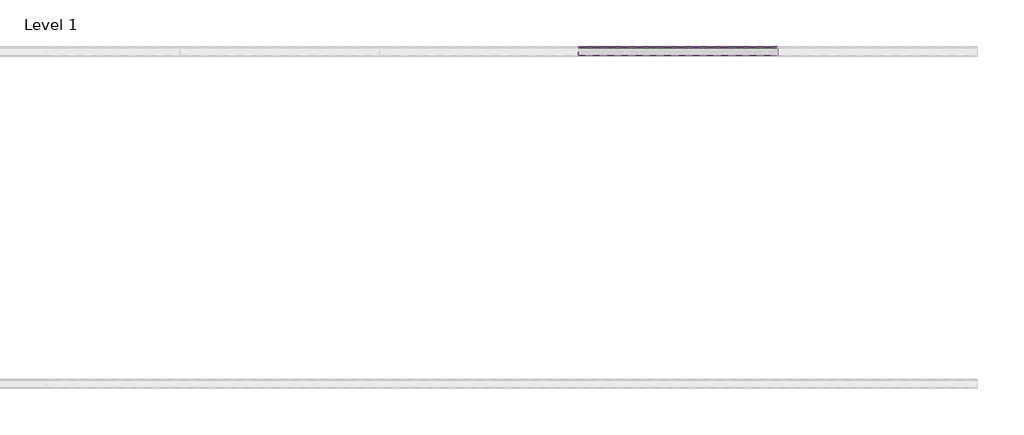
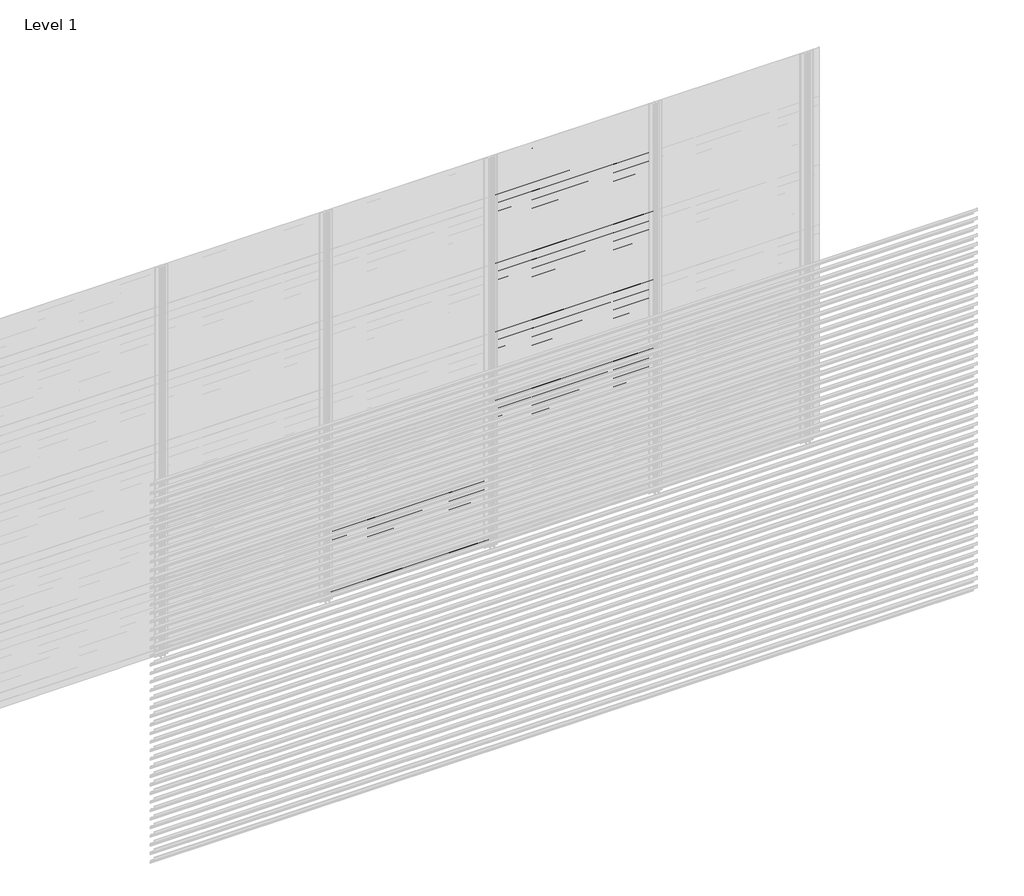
# One storey, part 122 of 540: 43 proxies.
"""IFC4 building model written with IfcOpenShell, lengths in millimetres."""

from ifc_helpers import new_model, si_unit, point, frame, frame_2d, origin, place, context, project, spatial, polyline, circle_curve, trimmed, segment, composite_curve, outline, extrude, element, save

model = new_model("IFC4")

# Units and contexts
model_context = context("Model", 3, world=origin())
ifc_project = project(units=[si_unit("LENGTHUNIT", "METRE", prefix="MILLI")], contexts=[model_context])

# Site, building, storey
site = spatial("IfcSite", under=ifc_project)
building = spatial("IfcBuilding", under=site)
storey = spatial("IfcBuildingStorey", under=building, Name="Level 1", Elevation=0.0)

# Proxies
placement = place(None, origin())
element("IfcBuildingElementProxy", 1, Name="Wall Sweeps", at=placement, inside=storey, context=model_context, shape_type="SweptSolid", body=[
    extrude(outline(composite_curve([segment(trimmed(circle_curve(frame_2d((7017.5825412, 457.7676769)), 26.4944656), [point((7034.5447587, 478.1205608))], [point((7044.0270068, 459.3946208))], False, "CARTESIAN"), True, "CONTINUOUS"), segment(polyline([(7044.0270068, 459.3946208), (7044.0270068, 451.5), (7042.7770068, 452.2216933), (7042.7770068, 457.7676769)]), True, "CONTINUOUS"), segment(trimmed(circle_curve(frame_2d((7017.5825412, 457.7676769)), 25.1944656), [point((7042.7770068, 457.7676769))], [point((7033.7545017, 477.086807))], True, "CARTESIAN"), True, "CONTINUOUS"), segment(polyline([(7033.7545017, 477.086807), (6989.0270068, 508.3158044), (6989.0270068, 528.0), (6990.2770068, 528.0), (6990.2770068, 509.0285629), (7034.5447587, 478.1205608)]), True, "CONTINUOUS")], self_intersect=False)), frame((91866.6208097, 0.0, 0.0), z_axis=(1.0, 0.0, 0.0), x_axis=(0.0, 1.0, 0.0)), (0.0, 0.0, 1.0), 1199.9999999),
])
element("IfcBuildingElementProxy", 2, Name="Wall Sweeps", at=placement, inside=storey, context=model_context, shape_type="SweptSolid", body=[
    extrude(outline(composite_curve([segment(trimmed(circle_curve(frame_2d((7017.5825412, 391.7676769)), 26.4944656), [point((7034.5447587, 412.1205608))], [point((7044.0270068, 393.3946208))], False, "CARTESIAN"), True, "CONTINUOUS"), segment(polyline([(7044.0270068, 393.3946208), (7044.0270068, 385.5), (7042.7770068, 386.2216933), (7042.7770068, 391.7676769)]), True, "CONTINUOUS"), segment(trimmed(circle_curve(frame_2d((7017.5825412, 391.7676769)), 25.1944656), [point((7042.7770068, 391.7676769))], [point((7033.7545017, 411.086807))], True, "CARTESIAN"), True, "CONTINUOUS"), segment(polyline([(7033.7545017, 411.086807), (6989.0270068, 442.3158044), (6989.0270068, 462.0), (6990.2770068, 462.0), (6990.2770068, 443.0285629), (7034.5447587, 412.1205608)]), True, "CONTINUOUS")], self_intersect=False)), frame((91866.6208097, 0.0, 0.0), z_axis=(1.0, 0.0, 0.0), x_axis=(0.0, 1.0, 0.0)), (0.0, 0.0, 1.0), 1199.9999999),
])
element("IfcBuildingElementProxy", 3, Name="Wall Sweeps", at=placement, inside=storey, context=model_context, shape_type="SweptSolid", body=[
    extrude(outline(composite_curve([segment(trimmed(circle_curve(frame_2d((7017.5825412, 325.7676769)), 26.4944656), [point((7034.5447587, 346.1205608))], [point((7044.0270068, 327.3946208))], False, "CARTESIAN"), True, "CONTINUOUS"), segment(polyline([(7044.0270068, 327.3946208), (7044.0270068, 319.5), (7042.7770068, 320.2216933), (7042.7770068, 325.7676769)]), True, "CONTINUOUS"), segment(trimmed(circle_curve(frame_2d((7017.5825412, 325.7676769)), 25.1944656), [point((7042.7770068, 325.7676769))], [point((7033.7545017, 345.086807))], True, "CARTESIAN"), True, "CONTINUOUS"), segment(polyline([(7033.7545017, 345.086807), (6989.0270068, 376.3158044), (6989.0270068, 396.0), (6990.2770068, 396.0), (6990.2770068, 377.0285629), (7034.5447587, 346.1205608)]), True, "CONTINUOUS")], self_intersect=False)), frame((91866.6208097, 0.0, 0.0), z_axis=(1.0, 0.0, 0.0), x_axis=(0.0, 1.0, 0.0)), (0.0, 0.0, 1.0), 1199.9999999),
])
element("IfcBuildingElementProxy", 4, Name="Wall Sweeps", at=placement, inside=storey, context=model_context, shape_type="SweptSolid", body=[
    extrude(outline(composite_curve([segment(trimmed(circle_curve(frame_2d((7017.5825412, 259.7676769)), 26.4944656), [point((7034.5447587, 280.1205608))], [point((7044.0270068, 261.3946208))], False, "CARTESIAN"), True, "CONTINUOUS"), segment(polyline([(7044.0270068, 261.3946208), (7044.0270068, 253.5), (7042.7770068, 254.2216933), (7042.7770068, 259.7676769)]), True, "CONTINUOUS"), segment(trimmed(circle_curve(frame_2d((7017.5825412, 259.7676769)), 25.1944656), [point((7042.7770068, 259.7676769))], [point((7033.7545017, 279.086807))], True, "CARTESIAN"), True, "CONTINUOUS"), segment(polyline([(7033.7545017, 279.086807), (6989.0270068, 310.3158044), (6989.0270068, 330.0), (6990.2770068, 330.0), (6990.2770068, 311.0285629), (7034.5447587, 280.1205608)]), True, "CONTINUOUS")], self_intersect=False)), frame((91866.6208097, 0.0, 0.0), z_axis=(1.0, 0.0, 0.0), x_axis=(0.0, 1.0, 0.0)), (0.0, 0.0, 1.0), 1199.9999999),
])
element("IfcBuildingElementProxy", 5, Name="Wall Sweeps", at=placement, inside=storey, context=model_context, shape_type="SweptSolid", body=[
    extrude(outline(composite_curve([segment(trimmed(circle_curve(frame_2d((7017.5825412, 193.7676769)), 26.4944656), [point((7034.5447587, 214.1205608))], [point((7044.0270068, 195.3946208))], False, "CARTESIAN"), True, "CONTINUOUS"), segment(polyline([(7044.0270068, 195.3946208), (7044.0270068, 187.5), (7042.7770068, 188.2216933), (7042.7770068, 193.7676769)]), True, "CONTINUOUS"), segment(trimmed(circle_curve(frame_2d((7017.5825412, 193.7676769)), 25.1944656), [point((7042.7770068, 193.7676769))], [point((7033.7545017, 213.086807))], True, "CARTESIAN"), True, "CONTINUOUS"), segment(polyline([(7033.7545017, 213.086807), (6989.0270068, 244.3158044), (6989.0270068, 264.0), (6990.2770068, 264.0), (6990.2770068, 245.0285629), (7034.5447587, 214.1205608)]), True, "CONTINUOUS")], self_intersect=False)), frame((91866.6208097, 0.0, 0.0), z_axis=(1.0, 0.0, 0.0), x_axis=(0.0, 1.0, 0.0)), (0.0, 0.0, 1.0), 1199.9999999),
])
element("IfcBuildingElementProxy", 6, Name="Wall Sweeps", at=placement, inside=storey, context=model_context, shape_type="SweptSolid", body=[
    extrude(outline(composite_curve([segment(trimmed(circle_curve(frame_2d((7017.5825412, 127.7676769)), 26.4944656), [point((7034.5447587, 148.1205608))], [point((7044.0270068, 129.3946208))], False, "CARTESIAN"), True, "CONTINUOUS"), segment(polyline([(7044.0270068, 129.3946208), (7044.0270068, 121.5), (7042.7770068, 122.2216933), (7042.7770068, 127.7676769)]), True, "CONTINUOUS"), segment(trimmed(circle_curve(frame_2d((7017.5825412, 127.7676769)), 25.1944656), [point((7042.7770068, 127.7676769))], [point((7033.7545017, 147.086807))], True, "CARTESIAN"), True, "CONTINUOUS"), segment(polyline([(7033.7545017, 147.086807), (6989.0270068, 178.3158044), (6989.0270068, 198.0), (6990.2770068, 198.0), (6990.2770068, 179.0285629), (7034.5447587, 148.1205608)]), True, "CONTINUOUS")], self_intersect=False)), frame((91866.6208097, 0.0, 0.0), z_axis=(1.0, 0.0, 0.0), x_axis=(0.0, 1.0, 0.0)), (0.0, 0.0, 1.0), 1199.9999999),
])
element("IfcBuildingElementProxy", 7, Name="Wall Sweeps", at=placement, inside=storey, context=model_context, shape_type="SweptSolid", body=[
    extrude(outline(composite_curve([segment(trimmed(circle_curve(frame_2d((7017.5825412, 61.7676769)), 26.4944656), [point((7034.5447587, 82.1205608))], [point((7044.0270068, 63.3946208))], False, "CARTESIAN"), True, "CONTINUOUS"), segment(polyline([(7044.0270068, 63.3946208), (7044.0270068, 55.5), (7042.7770068, 56.2216933), (7042.7770068, 61.7676769)]), True, "CONTINUOUS"), segment(trimmed(circle_curve(frame_2d((7017.5825412, 61.7676769)), 25.1944656), [point((7042.7770068, 61.7676769))], [point((7033.7545017, 81.086807))], True, "CARTESIAN"), True, "CONTINUOUS"), segment(polyline([(7033.7545017, 81.086807), (6989.0270068, 112.3158044), (6989.0270068, 132.0), (6990.2770068, 132.0), (6990.2770068, 113.0285629), (7034.5447587, 82.1205608)]), True, "CONTINUOUS")], self_intersect=False)), frame((91866.6208097, 0.0, 0.0), z_axis=(1.0, 0.0, 0.0), x_axis=(0.0, 1.0, 0.0)), (0.0, 0.0, 1.0), 1199.9999999),
])
element("IfcBuildingElementProxy", 8, Name="Wall Sweeps", at=placement, inside=storey, context=model_context, shape_type="SweptSolid", body=[
    extrude(outline(composite_curve([segment(trimmed(circle_curve(frame_2d((7017.5825412, -4.2323231)), 26.4944656), [point((7034.5447587, 16.1205608))], [point((7044.0270068, -2.6053792))], False, "CARTESIAN"), True, "CONTINUOUS"), segment(polyline([(7044.0270068, -2.6053792), (7044.0270068, -10.5), (7042.7770068, -9.7783067), (7042.7770068, -4.2323231)]), True, "CONTINUOUS"), segment(trimmed(circle_curve(frame_2d((7017.5825412, -4.2323231)), 25.1944656), [point((7042.7770068, -4.2323231))], [point((7033.7545017, 15.086807))], True, "CARTESIAN"), True, "CONTINUOUS"), segment(polyline([(7033.7545017, 15.086807), (6989.0270068, 46.3158044), (6989.0270068, 66.0), (6990.2770068, 66.0), (6990.2770068, 47.0285629), (7034.5447587, 16.1205608)]), True, "CONTINUOUS")], self_intersect=False)), frame((91866.6208097, 0.0, 0.0), z_axis=(1.0, 0.0, 0.0), x_axis=(0.0, 1.0, 0.0)), (0.0, 0.0, 1.0), 1199.9999999),
])
element("IfcBuildingElementProxy", 9, Name="Wall Sweeps", at=placement, inside=storey, context=model_context, shape_type="SweptSolid", body=[
    extrude(outline(composite_curve([segment(trimmed(circle_curve(frame_2d((7017.5825412, 2899.7676769)), 26.4944656), [point((7034.5447587, 2920.1205608))], [point((7044.0270068, 2901.3946208))], False, "CARTESIAN"), True, "CONTINUOUS"), segment(polyline([(7044.0270068, 2901.3946208), (7044.0270068, 2893.5), (7042.7770068, 2894.2216933), (7042.7770068, 2899.7676769)]), True, "CONTINUOUS"), segment(trimmed(circle_curve(frame_2d((7017.5825412, 2899.7676769)), 25.1944656), [point((7042.7770068, 2899.7676769))], [point((7033.7545017, 2919.086807))], True, "CARTESIAN"), True, "CONTINUOUS"), segment(polyline([(7033.7545017, 2919.086807), (6989.0270068, 2950.3158044), (6989.0270068, 2970.0), (6990.2770068, 2970.0), (6990.2770068, 2951.0285629), (7034.5447587, 2920.1205608)]), True, "CONTINUOUS")], self_intersect=False)), frame((93066.6208096, 0.0, 0.0), z_axis=(1.0, 0.0, 0.0), x_axis=(0.0, 1.0, 0.0)), (0.0, 0.0, 1.0), 1199.9999999),
])
element("IfcBuildingElementProxy", 10, Name="Wall Sweeps", at=placement, inside=storey, context=model_context, shape_type="SweptSolid", body=[
    extrude(outline(composite_curve([segment(trimmed(circle_curve(frame_2d((7017.5825412, 2833.7676769)), 26.4944656), [point((7034.5447587, 2854.1205608))], [point((7044.0270068, 2835.3946208))], False, "CARTESIAN"), True, "CONTINUOUS"), segment(polyline([(7044.0270068, 2835.3946208), (7044.0270068, 2827.5), (7042.7770068, 2828.2216933), (7042.7770068, 2833.7676769)]), True, "CONTINUOUS"), segment(trimmed(circle_curve(frame_2d((7017.5825412, 2833.7676769)), 25.1944656), [point((7042.7770068, 2833.7676769))], [point((7033.7545017, 2853.086807))], True, "CARTESIAN"), True, "CONTINUOUS"), segment(polyline([(7033.7545017, 2853.086807), (6989.0270068, 2884.3158044), (6989.0270068, 2904.0), (6990.2770068, 2904.0), (6990.2770068, 2885.0285629), (7034.5447587, 2854.1205608)]), True, "CONTINUOUS")], self_intersect=False)), frame((93066.6208096, 0.0, 0.0), z_axis=(1.0, 0.0, 0.0), x_axis=(0.0, 1.0, 0.0)), (0.0, 0.0, 1.0), 1199.9999999),
])
element("IfcBuildingElementProxy", 11, Name="Wall Sweeps", at=placement, inside=storey, context=model_context, shape_type="SweptSolid", body=[
    extrude(outline(composite_curve([segment(trimmed(circle_curve(frame_2d((7017.5825412, 2767.7676769)), 26.4944656), [point((7034.5447587, 2788.1205608))], [point((7044.0270068, 2769.3946208))], False, "CARTESIAN"), True, "CONTINUOUS"), segment(polyline([(7044.0270068, 2769.3946208), (7044.0270068, 2761.5), (7042.7770068, 2762.2216933), (7042.7770068, 2767.7676769)]), True, "CONTINUOUS"), segment(trimmed(circle_curve(frame_2d((7017.5825412, 2767.7676769)), 25.1944656), [point((7042.7770068, 2767.7676769))], [point((7033.7545017, 2787.086807))], True, "CARTESIAN"), True, "CONTINUOUS"), segment(polyline([(7033.7545017, 2787.086807), (6989.0270068, 2818.3158044), (6989.0270068, 2838.0), (6990.2770068, 2838.0), (6990.2770068, 2819.0285629), (7034.5447587, 2788.1205608)]), True, "CONTINUOUS")], self_intersect=False)), frame((93066.6208096, 0.0, 0.0), z_axis=(1.0, 0.0, 0.0), x_axis=(0.0, 1.0, 0.0)), (0.0, 0.0, 1.0), 1199.9999999),
])
element("IfcBuildingElementProxy", 12, Name="Wall Sweeps", at=placement, inside=storey, context=model_context, shape_type="SweptSolid", body=[
    extrude(outline(composite_curve([segment(trimmed(circle_curve(frame_2d((7017.5825412, 2701.7676769)), 26.4944656), [point((7034.5447587, 2722.1205608))], [point((7044.0270068, 2703.3946208))], False, "CARTESIAN"), True, "CONTINUOUS"), segment(polyline([(7044.0270068, 2703.3946208), (7044.0270068, 2695.5), (7042.7770068, 2696.2216933), (7042.7770068, 2701.7676769)]), True, "CONTINUOUS"), segment(trimmed(circle_curve(frame_2d((7017.5825412, 2701.7676769)), 25.1944656), [point((7042.7770068, 2701.7676769))], [point((7033.7545017, 2721.086807))], True, "CARTESIAN"), True, "CONTINUOUS"), segment(polyline([(7033.7545017, 2721.086807), (6989.0270068, 2752.3158044), (6989.0270068, 2772.0), (6990.2770068, 2772.0), (6990.2770068, 2753.0285629), (7034.5447587, 2722.1205608)]), True, "CONTINUOUS")], self_intersect=False)), frame((93066.6208096, 0.0, 0.0), z_axis=(1.0, 0.0, 0.0), x_axis=(0.0, 1.0, 0.0)), (0.0, 0.0, 1.0), 1199.9999999),
])
element("IfcBuildingElementProxy", 13, Name="Wall Sweeps", at=placement, inside=storey, context=model_context, shape_type="SweptSolid", body=[
    extrude(outline(composite_curve([segment(trimmed(circle_curve(frame_2d((7017.5825412, 2635.7676769)), 26.4944656), [point((7034.5447587, 2656.1205608))], [point((7044.0270068, 2637.3946208))], False, "CARTESIAN"), True, "CONTINUOUS"), segment(polyline([(7044.0270068, 2637.3946208), (7044.0270068, 2629.5), (7042.7770068, 2630.2216933), (7042.7770068, 2635.7676769)]), True, "CONTINUOUS"), segment(trimmed(circle_curve(frame_2d((7017.5825412, 2635.7676769)), 25.1944656), [point((7042.7770068, 2635.7676769))], [point((7033.7545017, 2655.086807))], True, "CARTESIAN"), True, "CONTINUOUS"), segment(polyline([(7033.7545017, 2655.086807), (6989.0270068, 2686.3158044), (6989.0270068, 2706.0), (6990.2770068, 2706.0), (6990.2770068, 2687.0285629), (7034.5447587, 2656.1205608)]), True, "CONTINUOUS")], self_intersect=False)), frame((93066.6208096, 0.0, 0.0), z_axis=(1.0, 0.0, 0.0), x_axis=(0.0, 1.0, 0.0)), (0.0, 0.0, 1.0), 1199.9999999),
])
element("IfcBuildingElementProxy", 14, Name="Wall Sweeps", at=placement, inside=storey, context=model_context, shape_type="SweptSolid", body=[
    extrude(outline(composite_curve([segment(trimmed(circle_curve(frame_2d((7017.5825412, 2569.7676769)), 26.4944656), [point((7034.5447587, 2590.1205608))], [point((7044.0270068, 2571.3946208))], False, "CARTESIAN"), True, "CONTINUOUS"), segment(polyline([(7044.0270068, 2571.3946208), (7044.0270068, 2563.5), (7042.7770068, 2564.2216933), (7042.7770068, 2569.7676769)]), True, "CONTINUOUS"), segment(trimmed(circle_curve(frame_2d((7017.5825412, 2569.7676769)), 25.1944656), [point((7042.7770068, 2569.7676769))], [point((7033.7545017, 2589.086807))], True, "CARTESIAN"), True, "CONTINUOUS"), segment(polyline([(7033.7545017, 2589.086807), (6989.0270068, 2620.3158044), (6989.0270068, 2640.0), (6990.2770068, 2640.0), (6990.2770068, 2621.0285629), (7034.5447587, 2590.1205608)]), True, "CONTINUOUS")], self_intersect=False)), frame((93066.6208096, 0.0, 0.0), z_axis=(1.0, 0.0, 0.0), x_axis=(0.0, 1.0, 0.0)), (0.0, 0.0, 1.0), 1199.9999999),
])
element("IfcBuildingElementProxy", 15, Name="Wall Sweeps", at=placement, inside=storey, context=model_context, shape_type="SweptSolid", body=[
    extrude(outline(composite_curve([segment(trimmed(circle_curve(frame_2d((7017.5825412, 2503.7676769)), 26.4944656), [point((7034.5447587, 2524.1205608))], [point((7044.0270068, 2505.3946208))], False, "CARTESIAN"), True, "CONTINUOUS"), segment(polyline([(7044.0270068, 2505.3946208), (7044.0270068, 2497.5), (7042.7770068, 2498.2216933), (7042.7770068, 2503.7676769)]), True, "CONTINUOUS"), segment(trimmed(circle_curve(frame_2d((7017.5825412, 2503.7676769)), 25.1944656), [point((7042.7770068, 2503.7676769))], [point((7033.7545017, 2523.086807))], True, "CARTESIAN"), True, "CONTINUOUS"), segment(polyline([(7033.7545017, 2523.086807), (6989.0270068, 2554.3158044), (6989.0270068, 2574.0), (6990.2770068, 2574.0), (6990.2770068, 2555.0285629), (7034.5447587, 2524.1205608)]), True, "CONTINUOUS")], self_intersect=False)), frame((93066.6208096, 0.0, 0.0), z_axis=(1.0, 0.0, 0.0), x_axis=(0.0, 1.0, 0.0)), (0.0, 0.0, 1.0), 1199.9999999),
])
element("IfcBuildingElementProxy", 16, Name="Wall Sweeps", at=placement, inside=storey, context=model_context, shape_type="SweptSolid", body=[
    extrude(outline(composite_curve([segment(trimmed(circle_curve(frame_2d((7017.5825412, 2437.7676769)), 26.4944656), [point((7034.5447587, 2458.1205608))], [point((7044.0270068, 2439.3946208))], False, "CARTESIAN"), True, "CONTINUOUS"), segment(polyline([(7044.0270068, 2439.3946208), (7044.0270068, 2431.5), (7042.7770068, 2432.2216933), (7042.7770068, 2437.7676769)]), True, "CONTINUOUS"), segment(trimmed(circle_curve(frame_2d((7017.5825412, 2437.7676769)), 25.1944656), [point((7042.7770068, 2437.7676769))], [point((7033.7545017, 2457.086807))], True, "CARTESIAN"), True, "CONTINUOUS"), segment(polyline([(7033.7545017, 2457.086807), (6989.0270068, 2488.3158044), (6989.0270068, 2508.0), (6990.2770068, 2508.0), (6990.2770068, 2489.0285629), (7034.5447587, 2458.1205608)]), True, "CONTINUOUS")], self_intersect=False)), frame((93066.6208096, 0.0, 0.0), z_axis=(1.0, 0.0, 0.0), x_axis=(0.0, 1.0, 0.0)), (0.0, 0.0, 1.0), 1199.9999999),
])
element("IfcBuildingElementProxy", 17, Name="Wall Sweeps", at=placement, inside=storey, context=model_context, shape_type="SweptSolid", body=[
    extrude(outline(composite_curve([segment(trimmed(circle_curve(frame_2d((7017.5825412, 2371.7676769)), 26.4944656), [point((7034.5447587, 2392.1205608))], [point((7044.0270068, 2373.3946208))], False, "CARTESIAN"), True, "CONTINUOUS"), segment(polyline([(7044.0270068, 2373.3946208), (7044.0270068, 2365.5), (7042.7770068, 2366.2216933), (7042.7770068, 2371.7676769)]), True, "CONTINUOUS"), segment(trimmed(circle_curve(frame_2d((7017.5825412, 2371.7676769)), 25.1944656), [point((7042.7770068, 2371.7676769))], [point((7033.7545017, 2391.086807))], True, "CARTESIAN"), True, "CONTINUOUS"), segment(polyline([(7033.7545017, 2391.086807), (6989.0270068, 2422.3158044), (6989.0270068, 2442.0), (6990.2770068, 2442.0), (6990.2770068, 2423.0285629), (7034.5447587, 2392.1205608)]), True, "CONTINUOUS")], self_intersect=False)), frame((93066.6208096, 0.0, 0.0), z_axis=(1.0, 0.0, 0.0), x_axis=(0.0, 1.0, 0.0)), (0.0, 0.0, 1.0), 1199.9999999),
])
element("IfcBuildingElementProxy", 18, Name="Wall Sweeps", at=placement, inside=storey, context=model_context, shape_type="SweptSolid", body=[
    extrude(outline(composite_curve([segment(trimmed(circle_curve(frame_2d((7017.5825412, 2305.7676769)), 26.4944656), [point((7034.5447587, 2326.1205608))], [point((7044.0270068, 2307.3946208))], False, "CARTESIAN"), True, "CONTINUOUS"), segment(polyline([(7044.0270068, 2307.3946208), (7044.0270068, 2299.5), (7042.7770068, 2300.2216933), (7042.7770068, 2305.7676769)]), True, "CONTINUOUS"), segment(trimmed(circle_curve(frame_2d((7017.5825412, 2305.7676769)), 25.1944656), [point((7042.7770068, 2305.7676769))], [point((7033.7545017, 2325.086807))], True, "CARTESIAN"), True, "CONTINUOUS"), segment(polyline([(7033.7545017, 2325.086807), (6989.0270068, 2356.3158044), (6989.0270068, 2376.0), (6990.2770068, 2376.0), (6990.2770068, 2357.0285629), (7034.5447587, 2326.1205608)]), True, "CONTINUOUS")], self_intersect=False)), frame((93066.6208096, 0.0, 0.0), z_axis=(1.0, 0.0, 0.0), x_axis=(0.0, 1.0, 0.0)), (0.0, 0.0, 1.0), 1199.9999999),
])
element("IfcBuildingElementProxy", 19, Name="Wall Sweeps", at=placement, inside=storey, context=model_context, shape_type="SweptSolid", body=[
    extrude(outline(composite_curve([segment(trimmed(circle_curve(frame_2d((7017.5825412, 2239.7676769)), 26.4944656), [point((7034.5447587, 2260.1205608))], [point((7044.0270068, 2241.3946208))], False, "CARTESIAN"), True, "CONTINUOUS"), segment(polyline([(7044.0270068, 2241.3946208), (7044.0270068, 2233.5), (7042.7770068, 2234.2216933), (7042.7770068, 2239.7676769)]), True, "CONTINUOUS"), segment(trimmed(circle_curve(frame_2d((7017.5825412, 2239.7676769)), 25.1944656), [point((7042.7770068, 2239.7676769))], [point((7033.7545017, 2259.086807))], True, "CARTESIAN"), True, "CONTINUOUS"), segment(polyline([(7033.7545017, 2259.086807), (6989.0270068, 2290.3158044), (6989.0270068, 2310.0), (6990.2770068, 2310.0), (6990.2770068, 2291.0285629), (7034.5447587, 2260.1205608)]), True, "CONTINUOUS")], self_intersect=False)), frame((93066.6208096, 0.0, 0.0), z_axis=(1.0, 0.0, 0.0), x_axis=(0.0, 1.0, 0.0)), (0.0, 0.0, 1.0), 1199.9999999),
])
element("IfcBuildingElementProxy", 20, Name="Wall Sweeps", at=placement, inside=storey, context=model_context, shape_type="SweptSolid", body=[
    extrude(outline(composite_curve([segment(trimmed(circle_curve(frame_2d((7017.5825412, 2173.7676769)), 26.4944656), [point((7034.5447587, 2194.1205608))], [point((7044.0270068, 2175.3946208))], False, "CARTESIAN"), True, "CONTINUOUS"), segment(polyline([(7044.0270068, 2175.3946208), (7044.0270068, 2167.5), (7042.7770068, 2168.2216933), (7042.7770068, 2173.7676769)]), True, "CONTINUOUS"), segment(trimmed(circle_curve(frame_2d((7017.5825412, 2173.7676769)), 25.1944656), [point((7042.7770068, 2173.7676769))], [point((7033.7545017, 2193.086807))], True, "CARTESIAN"), True, "CONTINUOUS"), segment(polyline([(7033.7545017, 2193.086807), (6989.0270068, 2224.3158044), (6989.0270068, 2244.0), (6990.2770068, 2244.0), (6990.2770068, 2225.0285629), (7034.5447587, 2194.1205608)]), True, "CONTINUOUS")], self_intersect=False)), frame((93066.6208096, 0.0, 0.0), z_axis=(1.0, 0.0, 0.0), x_axis=(0.0, 1.0, 0.0)), (0.0, 0.0, 1.0), 1199.9999999),
])
element("IfcBuildingElementProxy", 21, Name="Wall Sweeps", at=placement, inside=storey, context=model_context, shape_type="SweptSolid", body=[
    extrude(outline(composite_curve([segment(trimmed(circle_curve(frame_2d((7017.5825412, 2107.7676769)), 26.4944656), [point((7034.5447587, 2128.1205608))], [point((7044.0270068, 2109.3946208))], False, "CARTESIAN"), True, "CONTINUOUS"), segment(polyline([(7044.0270068, 2109.3946208), (7044.0270068, 2101.5), (7042.7770068, 2102.2216933), (7042.7770068, 2107.7676769)]), True, "CONTINUOUS"), segment(trimmed(circle_curve(frame_2d((7017.5825412, 2107.7676769)), 25.1944656), [point((7042.7770068, 2107.7676769))], [point((7033.7545017, 2127.086807))], True, "CARTESIAN"), True, "CONTINUOUS"), segment(polyline([(7033.7545017, 2127.086807), (6989.0270068, 2158.3158044), (6989.0270068, 2178.0), (6990.2770068, 2178.0), (6990.2770068, 2159.0285629), (7034.5447587, 2128.1205608)]), True, "CONTINUOUS")], self_intersect=False)), frame((93066.6208096, 0.0, 0.0), z_axis=(1.0, 0.0, 0.0), x_axis=(0.0, 1.0, 0.0)), (0.0, 0.0, 1.0), 1199.9999999),
])
element("IfcBuildingElementProxy", 22, Name="Wall Sweeps", at=placement, inside=storey, context=model_context, shape_type="SweptSolid", body=[
    extrude(outline(composite_curve([segment(trimmed(circle_curve(frame_2d((7017.5825412, 2041.7676769)), 26.4944656), [point((7034.5447587, 2062.1205608))], [point((7044.0270068, 2043.3946208))], False, "CARTESIAN"), True, "CONTINUOUS"), segment(polyline([(7044.0270068, 2043.3946208), (7044.0270068, 2035.5), (7042.7770068, 2036.2216933), (7042.7770068, 2041.7676769)]), True, "CONTINUOUS"), segment(trimmed(circle_curve(frame_2d((7017.5825412, 2041.7676769)), 25.1944656), [point((7042.7770068, 2041.7676769))], [point((7033.7545017, 2061.086807))], True, "CARTESIAN"), True, "CONTINUOUS"), segment(polyline([(7033.7545017, 2061.086807), (6989.0270068, 2092.3158044), (6989.0270068, 2112.0), (6990.2770068, 2112.0), (6990.2770068, 2093.0285629), (7034.5447587, 2062.1205608)]), True, "CONTINUOUS")], self_intersect=False)), frame((93066.6208096, 0.0, 0.0), z_axis=(1.0, 0.0, 0.0), x_axis=(0.0, 1.0, 0.0)), (0.0, 0.0, 1.0), 1199.9999999),
])
element("IfcBuildingElementProxy", 23, Name="Wall Sweeps", at=placement, inside=storey, context=model_context, shape_type="SweptSolid", body=[
    extrude(outline(composite_curve([segment(trimmed(circle_curve(frame_2d((7017.5825412, 1975.7676769)), 26.4944656), [point((7034.5447587, 1996.1205608))], [point((7044.0270068, 1977.3946208))], False, "CARTESIAN"), True, "CONTINUOUS"), segment(polyline([(7044.0270068, 1977.3946208), (7044.0270068, 1969.5), (7042.7770068, 1970.2216933), (7042.7770068, 1975.7676769)]), True, "CONTINUOUS"), segment(trimmed(circle_curve(frame_2d((7017.5825412, 1975.7676769)), 25.1944656), [point((7042.7770068, 1975.7676769))], [point((7033.7545017, 1995.086807))], True, "CARTESIAN"), True, "CONTINUOUS"), segment(polyline([(7033.7545017, 1995.086807), (6989.0270068, 2026.3158044), (6989.0270068, 2046.0), (6990.2770068, 2046.0), (6990.2770068, 2027.0285629), (7034.5447587, 1996.1205608)]), True, "CONTINUOUS")], self_intersect=False)), frame((93066.6208096, 0.0, 0.0), z_axis=(1.0, 0.0, 0.0), x_axis=(0.0, 1.0, 0.0)), (0.0, 0.0, 1.0), 1199.9999999),
])
element("IfcBuildingElementProxy", 24, Name="Wall Sweeps", at=placement, inside=storey, context=model_context, shape_type="SweptSolid", body=[
    extrude(outline(composite_curve([segment(trimmed(circle_curve(frame_2d((7017.5825412, 1909.7676769)), 26.4944656), [point((7034.5447587, 1930.1205608))], [point((7044.0270068, 1911.3946208))], False, "CARTESIAN"), True, "CONTINUOUS"), segment(polyline([(7044.0270068, 1911.3946208), (7044.0270068, 1903.5), (7042.7770068, 1904.2216933), (7042.7770068, 1909.7676769)]), True, "CONTINUOUS"), segment(trimmed(circle_curve(frame_2d((7017.5825412, 1909.7676769)), 25.1944656), [point((7042.7770068, 1909.7676769))], [point((7033.7545017, 1929.086807))], True, "CARTESIAN"), True, "CONTINUOUS"), segment(polyline([(7033.7545017, 1929.086807), (6989.0270068, 1960.3158044), (6989.0270068, 1980.0), (6990.2770068, 1980.0), (6990.2770068, 1961.0285629), (7034.5447587, 1930.1205608)]), True, "CONTINUOUS")], self_intersect=False)), frame((93066.6208096, 0.0, 0.0), z_axis=(1.0, 0.0, 0.0), x_axis=(0.0, 1.0, 0.0)), (0.0, 0.0, 1.0), 1199.9999999),
])
element("IfcBuildingElementProxy", 25, Name="Wall Sweeps", at=placement, inside=storey, context=model_context, shape_type="SweptSolid", body=[
    extrude(outline(composite_curve([segment(trimmed(circle_curve(frame_2d((7017.5825412, 1843.7676769)), 26.4944656), [point((7034.5447587, 1864.1205608))], [point((7044.0270068, 1845.3946208))], False, "CARTESIAN"), True, "CONTINUOUS"), segment(polyline([(7044.0270068, 1845.3946208), (7044.0270068, 1837.5), (7042.7770068, 1838.2216933), (7042.7770068, 1843.7676769)]), True, "CONTINUOUS"), segment(trimmed(circle_curve(frame_2d((7017.5825412, 1843.7676769)), 25.1944656), [point((7042.7770068, 1843.7676769))], [point((7033.7545017, 1863.086807))], True, "CARTESIAN"), True, "CONTINUOUS"), segment(polyline([(7033.7545017, 1863.086807), (6989.0270068, 1894.3158044), (6989.0270068, 1914.0), (6990.2770068, 1914.0), (6990.2770068, 1895.0285629), (7034.5447587, 1864.1205608)]), True, "CONTINUOUS")], self_intersect=False)), frame((93066.6208096, 0.0, 0.0), z_axis=(1.0, 0.0, 0.0), x_axis=(0.0, 1.0, 0.0)), (0.0, 0.0, 1.0), 1199.9999999),
])
element("IfcBuildingElementProxy", 26, Name="Wall Sweeps", at=placement, inside=storey, context=model_context, shape_type="SweptSolid", body=[
    extrude(outline(composite_curve([segment(trimmed(circle_curve(frame_2d((7017.5825412, 1777.7676769)), 26.4944656), [point((7034.5447587, 1798.1205608))], [point((7044.0270068, 1779.3946208))], False, "CARTESIAN"), True, "CONTINUOUS"), segment(polyline([(7044.0270068, 1779.3946208), (7044.0270068, 1771.5), (7042.7770068, 1772.2216933), (7042.7770068, 1777.7676769)]), True, "CONTINUOUS"), segment(trimmed(circle_curve(frame_2d((7017.5825412, 1777.7676769)), 25.1944656), [point((7042.7770068, 1777.7676769))], [point((7033.7545017, 1797.086807))], True, "CARTESIAN"), True, "CONTINUOUS"), segment(polyline([(7033.7545017, 1797.086807), (6989.0270068, 1828.3158044), (6989.0270068, 1848.0), (6990.2770068, 1848.0), (6990.2770068, 1829.0285629), (7034.5447587, 1798.1205608)]), True, "CONTINUOUS")], self_intersect=False)), frame((93066.6208096, 0.0, 0.0), z_axis=(1.0, 0.0, 0.0), x_axis=(0.0, 1.0, 0.0)), (0.0, 0.0, 1.0), 1199.9999999),
])
element("IfcBuildingElementProxy", 27, Name="Wall Sweeps", at=placement, inside=storey, context=model_context, shape_type="SweptSolid", body=[
    extrude(outline(composite_curve([segment(trimmed(circle_curve(frame_2d((7017.5825412, 1711.7676769)), 26.4944656), [point((7034.5447587, 1732.1205608))], [point((7044.0270068, 1713.3946208))], False, "CARTESIAN"), True, "CONTINUOUS"), segment(polyline([(7044.0270068, 1713.3946208), (7044.0270068, 1705.5), (7042.7770068, 1706.2216933), (7042.7770068, 1711.7676769)]), True, "CONTINUOUS"), segment(trimmed(circle_curve(frame_2d((7017.5825412, 1711.7676769)), 25.1944656), [point((7042.7770068, 1711.7676769))], [point((7033.7545017, 1731.086807))], True, "CARTESIAN"), True, "CONTINUOUS"), segment(polyline([(7033.7545017, 1731.086807), (6989.0270068, 1762.3158044), (6989.0270068, 1782.0), (6990.2770068, 1782.0), (6990.2770068, 1763.0285629), (7034.5447587, 1732.1205608)]), True, "CONTINUOUS")], self_intersect=False)), frame((93066.6208096, 0.0, 0.0), z_axis=(1.0, 0.0, 0.0), x_axis=(0.0, 1.0, 0.0)), (0.0, 0.0, 1.0), 1199.9999999),
])
element("IfcBuildingElementProxy", 28, Name="Wall Sweeps", at=placement, inside=storey, context=model_context, shape_type="SweptSolid", body=[
    extrude(outline(composite_curve([segment(trimmed(circle_curve(frame_2d((7017.5825412, 1645.7676769)), 26.4944656), [point((7034.5447587, 1666.1205608))], [point((7044.0270068, 1647.3946208))], False, "CARTESIAN"), True, "CONTINUOUS"), segment(polyline([(7044.0270068, 1647.3946208), (7044.0270068, 1639.5), (7042.7770068, 1640.2216933), (7042.7770068, 1645.7676769)]), True, "CONTINUOUS"), segment(trimmed(circle_curve(frame_2d((7017.5825412, 1645.7676769)), 25.1944656), [point((7042.7770068, 1645.7676769))], [point((7033.7545017, 1665.086807))], True, "CARTESIAN"), True, "CONTINUOUS"), segment(polyline([(7033.7545017, 1665.086807), (6989.0270068, 1696.3158044), (6989.0270068, 1716.0), (6990.2770068, 1716.0), (6990.2770068, 1697.0285629), (7034.5447587, 1666.1205608)]), True, "CONTINUOUS")], self_intersect=False)), frame((93066.6208096, 0.0, 0.0), z_axis=(1.0, 0.0, 0.0), x_axis=(0.0, 1.0, 0.0)), (0.0, 0.0, 1.0), 1199.9999999),
])
element("IfcBuildingElementProxy", 29, Name="Wall Sweeps", at=placement, inside=storey, context=model_context, shape_type="SweptSolid", body=[
    extrude(outline(composite_curve([segment(trimmed(circle_curve(frame_2d((7017.5825412, 1579.7676769)), 26.4944656), [point((7034.5447587, 1600.1205608))], [point((7044.0270068, 1581.3946208))], False, "CARTESIAN"), True, "CONTINUOUS"), segment(polyline([(7044.0270068, 1581.3946208), (7044.0270068, 1573.5), (7042.7770068, 1574.2216933), (7042.7770068, 1579.7676769)]), True, "CONTINUOUS"), segment(trimmed(circle_curve(frame_2d((7017.5825412, 1579.7676769)), 25.1944656), [point((7042.7770068, 1579.7676769))], [point((7033.7545017, 1599.086807))], True, "CARTESIAN"), True, "CONTINUOUS"), segment(polyline([(7033.7545017, 1599.086807), (6989.0270068, 1630.3158044), (6989.0270068, 1650.0), (6990.2770068, 1650.0), (6990.2770068, 1631.0285629), (7034.5447587, 1600.1205608)]), True, "CONTINUOUS")], self_intersect=False)), frame((93066.6208096, 0.0, 0.0), z_axis=(1.0, 0.0, 0.0), x_axis=(0.0, 1.0, 0.0)), (0.0, 0.0, 1.0), 1199.9999999),
])
element("IfcBuildingElementProxy", 30, Name="Wall Sweeps", at=placement, inside=storey, context=model_context, shape_type="SweptSolid", body=[
    extrude(outline(composite_curve([segment(trimmed(circle_curve(frame_2d((7017.5825412, 1513.7676769)), 26.4944656), [point((7034.5447587, 1534.1205608))], [point((7044.0270068, 1515.3946208))], False, "CARTESIAN"), True, "CONTINUOUS"), segment(polyline([(7044.0270068, 1515.3946208), (7044.0270068, 1507.5), (7042.7770068, 1508.2216933), (7042.7770068, 1513.7676769)]), True, "CONTINUOUS"), segment(trimmed(circle_curve(frame_2d((7017.5825412, 1513.7676769)), 25.1944656), [point((7042.7770068, 1513.7676769))], [point((7033.7545017, 1533.086807))], True, "CARTESIAN"), True, "CONTINUOUS"), segment(polyline([(7033.7545017, 1533.086807), (6989.0270068, 1564.3158044), (6989.0270068, 1584.0), (6990.2770068, 1584.0), (6990.2770068, 1565.0285629), (7034.5447587, 1534.1205608)]), True, "CONTINUOUS")], self_intersect=False)), frame((93066.6208096, 0.0, 0.0), z_axis=(1.0, 0.0, 0.0), x_axis=(0.0, 1.0, 0.0)), (0.0, 0.0, 1.0), 1199.9999999),
])
element("IfcBuildingElementProxy", 31, Name="Wall Sweeps", at=placement, inside=storey, context=model_context, shape_type="SweptSolid", body=[
    extrude(outline(composite_curve([segment(trimmed(circle_curve(frame_2d((7017.5825412, 1447.7676769)), 26.4944656), [point((7034.5447587, 1468.1205608))], [point((7044.0270068, 1449.3946208))], False, "CARTESIAN"), True, "CONTINUOUS"), segment(polyline([(7044.0270068, 1449.3946208), (7044.0270068, 1441.5), (7042.7770068, 1442.2216933), (7042.7770068, 1447.7676769)]), True, "CONTINUOUS"), segment(trimmed(circle_curve(frame_2d((7017.5825412, 1447.7676769)), 25.1944656), [point((7042.7770068, 1447.7676769))], [point((7033.7545017, 1467.086807))], True, "CARTESIAN"), True, "CONTINUOUS"), segment(polyline([(7033.7545017, 1467.086807), (6989.0270068, 1498.3158044), (6989.0270068, 1518.0), (6990.2770068, 1518.0), (6990.2770068, 1499.0285629), (7034.5447587, 1468.1205608)]), True, "CONTINUOUS")], self_intersect=False)), frame((93066.6208096, 0.0, 0.0), z_axis=(1.0, 0.0, 0.0), x_axis=(0.0, 1.0, 0.0)), (0.0, 0.0, 1.0), 1199.9999999),
])
element("IfcBuildingElementProxy", 32, Name="Wall Sweeps", at=placement, inside=storey, context=model_context, shape_type="SweptSolid", body=[
    extrude(outline(composite_curve([segment(trimmed(circle_curve(frame_2d((7017.5825412, 1381.7676769)), 26.4944656), [point((7034.5447587, 1402.1205608))], [point((7044.0270068, 1383.3946208))], False, "CARTESIAN"), True, "CONTINUOUS"), segment(polyline([(7044.0270068, 1383.3946208), (7044.0270068, 1375.5), (7042.7770068, 1376.2216933), (7042.7770068, 1381.7676769)]), True, "CONTINUOUS"), segment(trimmed(circle_curve(frame_2d((7017.5825412, 1381.7676769)), 25.1944656), [point((7042.7770068, 1381.7676769))], [point((7033.7545017, 1401.086807))], True, "CARTESIAN"), True, "CONTINUOUS"), segment(polyline([(7033.7545017, 1401.086807), (6989.0270068, 1432.3158044), (6989.0270068, 1452.0), (6990.2770068, 1452.0), (6990.2770068, 1433.0285629), (7034.5447587, 1402.1205608)]), True, "CONTINUOUS")], self_intersect=False)), frame((93066.6208096, 0.0, 0.0), z_axis=(1.0, 0.0, 0.0), x_axis=(0.0, 1.0, 0.0)), (0.0, 0.0, 1.0), 1199.9999999),
])
element("IfcBuildingElementProxy", 33, Name="Wall Sweeps", at=placement, inside=storey, context=model_context, shape_type="SweptSolid", body=[
    extrude(outline(composite_curve([segment(trimmed(circle_curve(frame_2d((7017.5825412, 1315.7676769)), 26.4944656), [point((7034.5447587, 1336.1205608))], [point((7044.0270068, 1317.3946208))], False, "CARTESIAN"), True, "CONTINUOUS"), segment(polyline([(7044.0270068, 1317.3946208), (7044.0270068, 1309.5), (7042.7770068, 1310.2216933), (7042.7770068, 1315.7676769)]), True, "CONTINUOUS"), segment(trimmed(circle_curve(frame_2d((7017.5825412, 1315.7676769)), 25.1944656), [point((7042.7770068, 1315.7676769))], [point((7033.7545017, 1335.086807))], True, "CARTESIAN"), True, "CONTINUOUS"), segment(polyline([(7033.7545017, 1335.086807), (6989.0270068, 1366.3158044), (6989.0270068, 1386.0), (6990.2770068, 1386.0), (6990.2770068, 1367.0285629), (7034.5447587, 1336.1205608)]), True, "CONTINUOUS")], self_intersect=False)), frame((93066.6208096, 0.0, 0.0), z_axis=(1.0, 0.0, 0.0), x_axis=(0.0, 1.0, 0.0)), (0.0, 0.0, 1.0), 1199.9999999),
])
element("IfcBuildingElementProxy", 34, Name="Wall Sweeps", at=placement, inside=storey, context=model_context, shape_type="SweptSolid", body=[
    extrude(outline(composite_curve([segment(trimmed(circle_curve(frame_2d((7017.5825412, 1249.7676769)), 26.4944656), [point((7034.5447587, 1270.1205608))], [point((7044.0270068, 1251.3946208))], False, "CARTESIAN"), True, "CONTINUOUS"), segment(polyline([(7044.0270068, 1251.3946208), (7044.0270068, 1243.5), (7042.7770068, 1244.2216933), (7042.7770068, 1249.7676769)]), True, "CONTINUOUS"), segment(trimmed(circle_curve(frame_2d((7017.5825412, 1249.7676769)), 25.1944656), [point((7042.7770068, 1249.7676769))], [point((7033.7545017, 1269.086807))], True, "CARTESIAN"), True, "CONTINUOUS"), segment(polyline([(7033.7545017, 1269.086807), (6989.0270068, 1300.3158044), (6989.0270068, 1320.0), (6990.2770068, 1320.0), (6990.2770068, 1301.0285629), (7034.5447587, 1270.1205608)]), True, "CONTINUOUS")], self_intersect=False)), frame((93066.6208096, 0.0, 0.0), z_axis=(1.0, 0.0, 0.0), x_axis=(0.0, 1.0, 0.0)), (0.0, 0.0, 1.0), 1199.9999999),
])
element("IfcBuildingElementProxy", 35, Name="Wall Sweeps", at=placement, inside=storey, context=model_context, shape_type="SweptSolid", body=[
    extrude(outline(composite_curve([segment(trimmed(circle_curve(frame_2d((7017.5825412, 1183.7676769)), 26.4944656), [point((7034.5447587, 1204.1205608))], [point((7044.0270068, 1185.3946208))], False, "CARTESIAN"), True, "CONTINUOUS"), segment(polyline([(7044.0270068, 1185.3946208), (7044.0270068, 1177.5), (7042.7770068, 1178.2216933), (7042.7770068, 1183.7676769)]), True, "CONTINUOUS"), segment(trimmed(circle_curve(frame_2d((7017.5825412, 1183.7676769)), 25.1944656), [point((7042.7770068, 1183.7676769))], [point((7033.7545017, 1203.086807))], True, "CARTESIAN"), True, "CONTINUOUS"), segment(polyline([(7033.7545017, 1203.086807), (6989.0270068, 1234.3158044), (6989.0270068, 1254.0), (6990.2770068, 1254.0), (6990.2770068, 1235.0285629), (7034.5447587, 1204.1205608)]), True, "CONTINUOUS")], self_intersect=False)), frame((93066.6208096, 0.0, 0.0), z_axis=(1.0, 0.0, 0.0), x_axis=(0.0, 1.0, 0.0)), (0.0, 0.0, 1.0), 1199.9999999),
])
element("IfcBuildingElementProxy", 36, Name="Wall Sweeps", at=placement, inside=storey, context=model_context, shape_type="SweptSolid", body=[
    extrude(outline(composite_curve([segment(trimmed(circle_curve(frame_2d((7017.5825412, 1117.7676769)), 26.4944656), [point((7034.5447587, 1138.1205608))], [point((7044.0270068, 1119.3946208))], False, "CARTESIAN"), True, "CONTINUOUS"), segment(polyline([(7044.0270068, 1119.3946208), (7044.0270068, 1111.5), (7042.7770068, 1112.2216933), (7042.7770068, 1117.7676769)]), True, "CONTINUOUS"), segment(trimmed(circle_curve(frame_2d((7017.5825412, 1117.7676769)), 25.1944656), [point((7042.7770068, 1117.7676769))], [point((7033.7545017, 1137.086807))], True, "CARTESIAN"), True, "CONTINUOUS"), segment(polyline([(7033.7545017, 1137.086807), (6989.0270068, 1168.3158044), (6989.0270068, 1188.0), (6990.2770068, 1188.0), (6990.2770068, 1169.0285629), (7034.5447587, 1138.1205608)]), True, "CONTINUOUS")], self_intersect=False)), frame((93066.6208096, 0.0, 0.0), z_axis=(1.0, 0.0, 0.0), x_axis=(0.0, 1.0, 0.0)), (0.0, 0.0, 1.0), 1199.9999999),
])
element("IfcBuildingElementProxy", 37, Name="Wall Sweeps", at=placement, inside=storey, context=model_context, shape_type="SweptSolid", body=[
    extrude(outline(composite_curve([segment(trimmed(circle_curve(frame_2d((7017.5825412, 1051.7676769)), 26.4944656), [point((7034.5447587, 1072.1205608))], [point((7044.0270068, 1053.3946208))], False, "CARTESIAN"), True, "CONTINUOUS"), segment(polyline([(7044.0270068, 1053.3946208), (7044.0270068, 1045.5), (7042.7770068, 1046.2216933), (7042.7770068, 1051.7676769)]), True, "CONTINUOUS"), segment(trimmed(circle_curve(frame_2d((7017.5825412, 1051.7676769)), 25.1944656), [point((7042.7770068, 1051.7676769))], [point((7033.7545017, 1071.086807))], True, "CARTESIAN"), True, "CONTINUOUS"), segment(polyline([(7033.7545017, 1071.086807), (6989.0270068, 1102.3158044), (6989.0270068, 1122.0), (6990.2770068, 1122.0), (6990.2770068, 1103.0285629), (7034.5447587, 1072.1205608)]), True, "CONTINUOUS")], self_intersect=False)), frame((93066.6208096, 0.0, 0.0), z_axis=(1.0, 0.0, 0.0), x_axis=(0.0, 1.0, 0.0)), (0.0, 0.0, 1.0), 1199.9999999),
])
element("IfcBuildingElementProxy", 38, Name="Wall Sweeps", at=placement, inside=storey, context=model_context, shape_type="SweptSolid", body=[
    extrude(outline(composite_curve([segment(trimmed(circle_curve(frame_2d((7017.5825412, 985.7676769)), 26.4944656), [point((7034.5447587, 1006.1205608))], [point((7044.0270068, 987.3946208))], False, "CARTESIAN"), True, "CONTINUOUS"), segment(polyline([(7044.0270068, 987.3946208), (7044.0270068, 979.5), (7042.7770068, 980.2216933), (7042.7770068, 985.7676769)]), True, "CONTINUOUS"), segment(trimmed(circle_curve(frame_2d((7017.5825412, 985.7676769)), 25.1944656), [point((7042.7770068, 985.7676769))], [point((7033.7545017, 1005.086807))], True, "CARTESIAN"), True, "CONTINUOUS"), segment(polyline([(7033.7545017, 1005.086807), (6989.0270068, 1036.3158044), (6989.0270068, 1056.0), (6990.2770068, 1056.0), (6990.2770068, 1037.0285629), (7034.5447587, 1006.1205608)]), True, "CONTINUOUS")], self_intersect=False)), frame((93066.6208096, 0.0, 0.0), z_axis=(1.0, 0.0, 0.0), x_axis=(0.0, 1.0, 0.0)), (0.0, 0.0, 1.0), 1199.9999999),
])
element("IfcBuildingElementProxy", 39, Name="Wall Sweeps", at=placement, inside=storey, context=model_context, shape_type="SweptSolid", body=[
    extrude(outline(composite_curve([segment(trimmed(circle_curve(frame_2d((7017.5825412, 919.7676769)), 26.4944656), [point((7034.5447587, 940.1205608))], [point((7044.0270068, 921.3946208))], False, "CARTESIAN"), True, "CONTINUOUS"), segment(polyline([(7044.0270068, 921.3946208), (7044.0270068, 913.5), (7042.7770068, 914.2216933), (7042.7770068, 919.7676769)]), True, "CONTINUOUS"), segment(trimmed(circle_curve(frame_2d((7017.5825412, 919.7676769)), 25.1944656), [point((7042.7770068, 919.7676769))], [point((7033.7545017, 939.086807))], True, "CARTESIAN"), True, "CONTINUOUS"), segment(polyline([(7033.7545017, 939.086807), (6989.0270068, 970.3158044), (6989.0270068, 990.0), (6990.2770068, 990.0), (6990.2770068, 971.0285629), (7034.5447587, 940.1205608)]), True, "CONTINUOUS")], self_intersect=False)), frame((93066.6208096, 0.0, 0.0), z_axis=(1.0, 0.0, 0.0), x_axis=(0.0, 1.0, 0.0)), (0.0, 0.0, 1.0), 1199.9999999),
])
element("IfcBuildingElementProxy", 40, Name="Wall Sweeps", at=placement, inside=storey, context=model_context, shape_type="SweptSolid", body=[
    extrude(outline(composite_curve([segment(trimmed(circle_curve(frame_2d((7017.5825412, 853.7676769)), 26.4944656), [point((7034.5447587, 874.1205608))], [point((7044.0270068, 855.3946208))], False, "CARTESIAN"), True, "CONTINUOUS"), segment(polyline([(7044.0270068, 855.3946208), (7044.0270068, 847.5), (7042.7770068, 848.2216933), (7042.7770068, 853.7676769)]), True, "CONTINUOUS"), segment(trimmed(circle_curve(frame_2d((7017.5825412, 853.7676769)), 25.1944656), [point((7042.7770068, 853.7676769))], [point((7033.7545017, 873.086807))], True, "CARTESIAN"), True, "CONTINUOUS"), segment(polyline([(7033.7545017, 873.086807), (6989.0270068, 904.3158044), (6989.0270068, 924.0), (6990.2770068, 924.0), (6990.2770068, 905.0285629), (7034.5447587, 874.1205608)]), True, "CONTINUOUS")], self_intersect=False)), frame((93066.6208096, 0.0, 0.0), z_axis=(1.0, 0.0, 0.0), x_axis=(0.0, 1.0, 0.0)), (0.0, 0.0, 1.0), 1199.9999999),
])
element("IfcBuildingElementProxy", 41, Name="Wall Sweeps", at=placement, inside=storey, context=model_context, shape_type="SweptSolid", body=[
    extrude(outline(composite_curve([segment(trimmed(circle_curve(frame_2d((7017.5825412, 787.7676769)), 26.4944656), [point((7034.5447587, 808.1205608))], [point((7044.0270068, 789.3946208))], False, "CARTESIAN"), True, "CONTINUOUS"), segment(polyline([(7044.0270068, 789.3946208), (7044.0270068, 781.5), (7042.7770068, 782.2216933), (7042.7770068, 787.7676769)]), True, "CONTINUOUS"), segment(trimmed(circle_curve(frame_2d((7017.5825412, 787.7676769)), 25.1944656), [point((7042.7770068, 787.7676769))], [point((7033.7545017, 807.086807))], True, "CARTESIAN"), True, "CONTINUOUS"), segment(polyline([(7033.7545017, 807.086807), (6989.0270068, 838.3158044), (6989.0270068, 858.0), (6990.2770068, 858.0), (6990.2770068, 839.0285629), (7034.5447587, 808.1205608)]), True, "CONTINUOUS")], self_intersect=False)), frame((93066.6208096, 0.0, 0.0), z_axis=(1.0, 0.0, 0.0), x_axis=(0.0, 1.0, 0.0)), (0.0, 0.0, 1.0), 1199.9999999),
])
element("IfcBuildingElementProxy", 42, Name="Wall Sweeps", at=placement, inside=storey, context=model_context, shape_type="SweptSolid", body=[
    extrude(outline(composite_curve([segment(trimmed(circle_curve(frame_2d((7017.5825412, 721.7676769)), 26.4944656), [point((7034.5447587, 742.1205608))], [point((7044.0270068, 723.3946208))], False, "CARTESIAN"), True, "CONTINUOUS"), segment(polyline([(7044.0270068, 723.3946208), (7044.0270068, 715.5), (7042.7770068, 716.2216933), (7042.7770068, 721.7676769)]), True, "CONTINUOUS"), segment(trimmed(circle_curve(frame_2d((7017.5825412, 721.7676769)), 25.1944656), [point((7042.7770068, 721.7676769))], [point((7033.7545017, 741.086807))], True, "CARTESIAN"), True, "CONTINUOUS"), segment(polyline([(7033.7545017, 741.086807), (6989.0270068, 772.3158044), (6989.0270068, 792.0), (6990.2770068, 792.0), (6990.2770068, 773.0285629), (7034.5447587, 742.1205608)]), True, "CONTINUOUS")], self_intersect=False)), frame((93066.6208096, 0.0, 0.0), z_axis=(1.0, 0.0, 0.0), x_axis=(0.0, 1.0, 0.0)), (0.0, 0.0, 1.0), 1199.9999999),
])
element("IfcBuildingElementProxy", 43, Name="Wall Sweeps", at=placement, inside=storey, context=model_context, shape_type="SweptSolid", body=[
    extrude(outline(composite_curve([segment(trimmed(circle_curve(frame_2d((7017.5825412, 655.7676769)), 26.4944656), [point((7034.5447587, 676.1205608))], [point((7044.0270068, 657.3946208))], False, "CARTESIAN"), True, "CONTINUOUS"), segment(polyline([(7044.0270068, 657.3946208), (7044.0270068, 649.5), (7042.7770068, 650.2216933), (7042.7770068, 655.7676769)]), True, "CONTINUOUS"), segment(trimmed(circle_curve(frame_2d((7017.5825412, 655.7676769)), 25.1944656), [point((7042.7770068, 655.7676769))], [point((7033.7545017, 675.086807))], True, "CARTESIAN"), True, "CONTINUOUS"), segment(polyline([(7033.7545017, 675.086807), (6989.0270068, 706.3158044), (6989.0270068, 726.0), (6990.2770068, 726.0), (6990.2770068, 707.0285629), (7034.5447587, 676.1205608)]), True, "CONTINUOUS")], self_intersect=False)), frame((93066.6208096, 0.0, 0.0), z_axis=(1.0, 0.0, 0.0), x_axis=(0.0, 1.0, 0.0)), (0.0, 0.0, 1.0), 1199.9999999),
])

save(model, "model.ifc")
